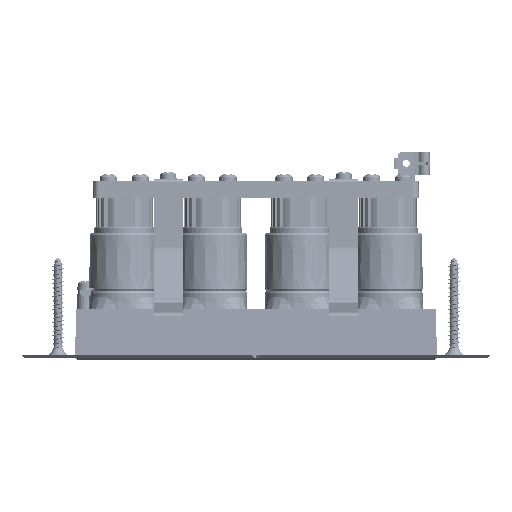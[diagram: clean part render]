
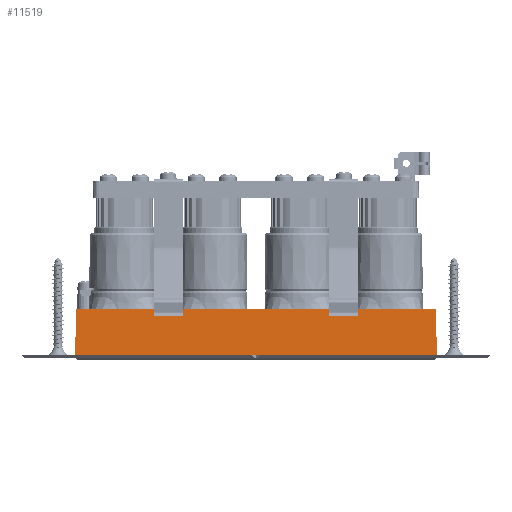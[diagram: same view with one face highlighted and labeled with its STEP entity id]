
A CAD part, front view. The second image highlights one B-rep face of the part: STEP entity #11519.
In plain terms, the highlighted planar face has unit normal (0, -0.999, 0.035).
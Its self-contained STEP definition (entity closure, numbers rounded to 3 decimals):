
#1065=DIRECTION('',(1.,0.,0.));
#1066=VECTOR('',#1065,125.871);
#1067=CARTESIAN_POINT('',(82.087,12.26,1.8));
#1068=LINE('',#1067,#1066);
#3045=DIRECTION('',(-0.036,0.035,0.999));
#3046=VECTOR('',#3045,15.92);
#3047=CARTESIAN_POINT('',(207.958,12.26,1.8));
#3048=LINE('',#3047,#3046);
#3053=DIRECTION('',(0.036,0.035,0.999));
#3054=VECTOR('',#3053,15.92);
#3055=CARTESIAN_POINT('',(82.087,12.26,1.8));
#3056=LINE('',#3055,#3054);
#3057=DIRECTION('',(1.,0.,0.));
#3058=VECTOR('',#3057,124.73);
#3059=CARTESIAN_POINT('',(82.657,12.815,17.7));
#3060=LINE('',#3059,#3058);
#5883=CARTESIAN_POINT('',(207.387,12.815,17.7));
#5885=VERTEX_POINT('',#5883);
#5887=CARTESIAN_POINT('',(82.657,12.815,17.7));
#5888=VERTEX_POINT('',#5887);
#6006=CARTESIAN_POINT('',(207.958,12.26,1.8));
#6008=VERTEX_POINT('',#6006);
#6460=CARTESIAN_POINT('',(82.087,12.26,1.8));
#6461=VERTEX_POINT('',#6460);
#11506=CARTESIAN_POINT('',(115.,12.25,1.509));
#11507=DIRECTION('',(0.,-0.999,0.035));
#11508=DIRECTION('',(-1.,0.,0.));
#11509=AXIS2_PLACEMENT_3D('',#11506,#11507,#11508);
#11510=PLANE('',#11509);
#11511=ORIENTED_EDGE('',*,*,#8466,.F.);
#11513=ORIENTED_EDGE('',*,*,#11512,.T.);
#11515=ORIENTED_EDGE('',*,*,#11514,.T.);
#11516=ORIENTED_EDGE('',*,*,#11497,.F.);
#11517=EDGE_LOOP('',(#11511,#11513,#11515,#11516));
#11518=FACE_OUTER_BOUND('',#11517,.F.);
#11519=ADVANCED_FACE('',(#11518),#11510,.T.);
#8466=EDGE_CURVE('',#6461,#6008,#1068,.T.);
#11497=EDGE_CURVE('',#6008,#5885,#3048,.T.);
#11512=EDGE_CURVE('',#6461,#5888,#3056,.T.);
#11514=EDGE_CURVE('',#5888,#5885,#3060,.T.);
